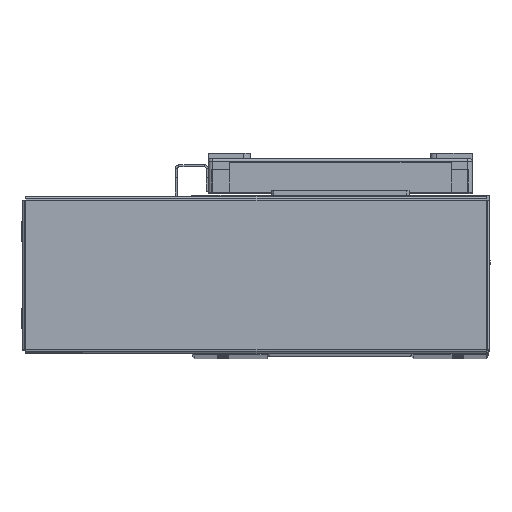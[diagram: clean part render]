
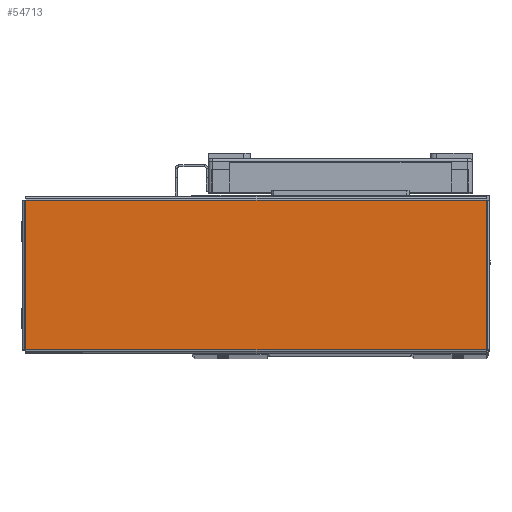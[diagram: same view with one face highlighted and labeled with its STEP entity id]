
A CAD part, top view. The second image highlights one B-rep face of the part: STEP entity #54713.
In plain terms, the highlighted planar face has unit normal (0, 0, 1) as drawn and (0, -1, 0) by its records, which use the part's own axes.
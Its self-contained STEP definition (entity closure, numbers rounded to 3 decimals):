
#3588 = FACE_OUTER_BOUND ( 'NONE', #54225, .T. ) ;
#4853 = ORIENTED_EDGE ( 'NONE', *, *, #57877, .T. ) ;
#5156 = ORIENTED_EDGE ( 'NONE', *, *, #55642, .T. ) ;
#5191 = ORIENTED_EDGE ( 'NONE', *, *, #55643, .T. ) ;
#5195 = ORIENTED_EDGE ( 'NONE', *, *, #55660, .T. ) ;
#12817 = AXIS2_PLACEMENT_3D ( 'NONE', #15741, #15778, #15805 ) ;
#15544 = CARTESIAN_POINT ( 'NONE',  ( 103.763, -1., -33.763 ) ) ;
#15546 = CARTESIAN_POINT ( 'NONE',  ( 103.763, -1., 33.763 ) ) ;
#15588 = CARTESIAN_POINT ( 'NONE',  ( -103.763, -1., -33.763 ) ) ;
#15590 = CARTESIAN_POINT ( 'NONE',  ( -103.763, -1., 33.763 ) ) ;
#15741 = CARTESIAN_POINT ( 'NONE',  ( 0., -1., 0. ) ) ;
#15778 = DIRECTION ( 'NONE',  ( 0., 1., 0. ) ) ;
#15803 = PLANE ( 'NONE',  #12817 ) ;
#15805 = DIRECTION ( 'NONE',  ( 0., 0., 1. ) ) ;
#23096 = DIRECTION ( 'NONE',  ( -1., 0., 0. ) ) ;
#23119 = CARTESIAN_POINT ( 'NONE',  ( 103.793, -1., 33.763 ) ) ;
#23232 = CARTESIAN_POINT ( 'NONE',  ( -103.793, -1., -33.763 ) ) ;
#23267 = DIRECTION ( 'NONE',  ( 1., 0., 0. ) ) ;
#23296 = DIRECTION ( 'NONE',  ( 0., 0., 1. ) ) ;
#23352 = CARTESIAN_POINT ( 'NONE',  ( 103.763, -1., -33.793 ) ) ;
#25868 = LINE ( 'NONE', #23352, #25883 ) ;
#25881 = VECTOR ( 'NONE', #23096, 1000. ) ;
#25883 = VECTOR ( 'NONE', #23296, 1000. ) ;
#25892 = VECTOR ( 'NONE', #23267, 1000. ) ;
#25914 = LINE ( 'NONE', #23232, #25892 ) ;
#25921 = LINE ( 'NONE', #23119, #25881 ) ;
#36881 = VECTOR ( 'NONE', #38915, 1000. ) ;
#36888 = LINE ( 'NONE', #38935, #36881 ) ;
#38915 = DIRECTION ( 'NONE',  ( 0., 0., -1. ) ) ;
#38935 = CARTESIAN_POINT ( 'NONE',  ( -103.763, -1., 33.793 ) ) ;
#50312 = VERTEX_POINT ( 'NONE', #15546 ) ;
#50375 = VERTEX_POINT ( 'NONE', #15588 ) ;
#50378 = VERTEX_POINT ( 'NONE', #15590 ) ;
#50381 = VERTEX_POINT ( 'NONE', #15544 ) ;
#54225 = EDGE_LOOP ( 'NONE', ( #5191, #4853, #5156, #5195 ) ) ;
#54713 = ADVANCED_FACE ( 'NONE', ( #3588 ), #15803, .F. ) ;
#55642 = EDGE_CURVE ( 'NONE', #50375, #50381, #25914, .T. ) ;
#55643 = EDGE_CURVE ( 'NONE', #50312, #50378, #25921, .T. ) ;
#55660 = EDGE_CURVE ( 'NONE', #50381, #50312, #25868, .T. ) ;
#57877 = EDGE_CURVE ( 'NONE', #50378, #50375, #36888, .T. ) ;
